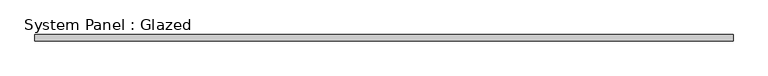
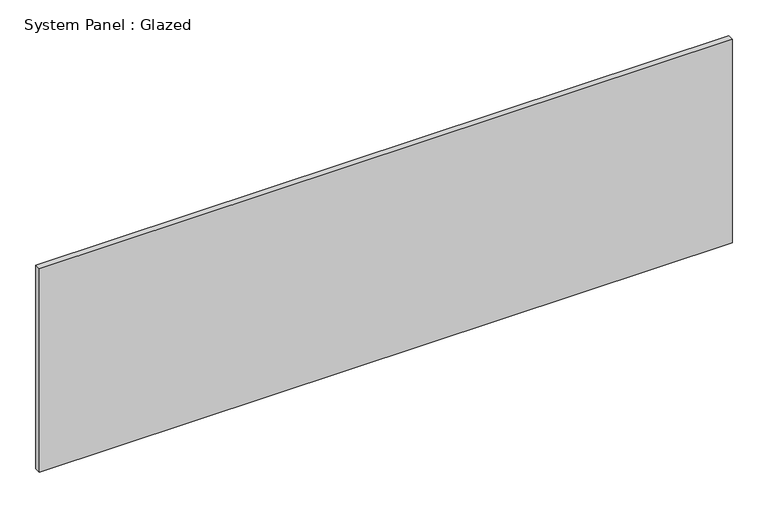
"""IFC4 building model written with IfcOpenShell, lengths in millimetres: plate geometry, System Panel : Glazed."""

from ifc_helpers import new_model, si_unit, origin, origin_with_axes, place, context, project, spatial, polyline, outline, extrude, source, transform, mapped, element, save


def system_panel_glazed_4594a90e(model_context):
    return source(origin(), model_context, "Body", "SweptSolid", [
        extrude(outline(polyline([(562.5000002, -5.0), (-562.5000002, -5.0), (-562.5000002, 5.0), (562.5000002, 5.0), (562.5000002, -5.0)])), origin_with_axes(), (0.0, 0.0, 1.0), 349.4373471),
    ])


if __name__ == "__main__":
    model = new_model("IFC4")
    model_context = context("Model", 3, world=origin())
    ifc_project = project(units=[si_unit("LENGTHUNIT", "METRE", prefix="MILLI")], contexts=[model_context])
    site = spatial("IfcSite", under=ifc_project)
    building = spatial("IfcBuilding", under=site)
    placement = place(None, origin())
    system_panel_glazed_shape = system_panel_glazed_4594a90e(model_context)
    element("IfcPlate", 1, ObjectType="System Panel : Glazed", at=placement, inside=building, context=model_context, shape_type="MappedRepresentation", body=[
        mapped(system_panel_glazed_shape, transform((0.0, 0.0, 0.0), x_axis=(1.0, 0.0, 0.0), y_axis=(0.0, 1.0, 0.0), z_axis=(0.0, 0.0, 1.0))),
    ])
    save(model, "model.ifc")
